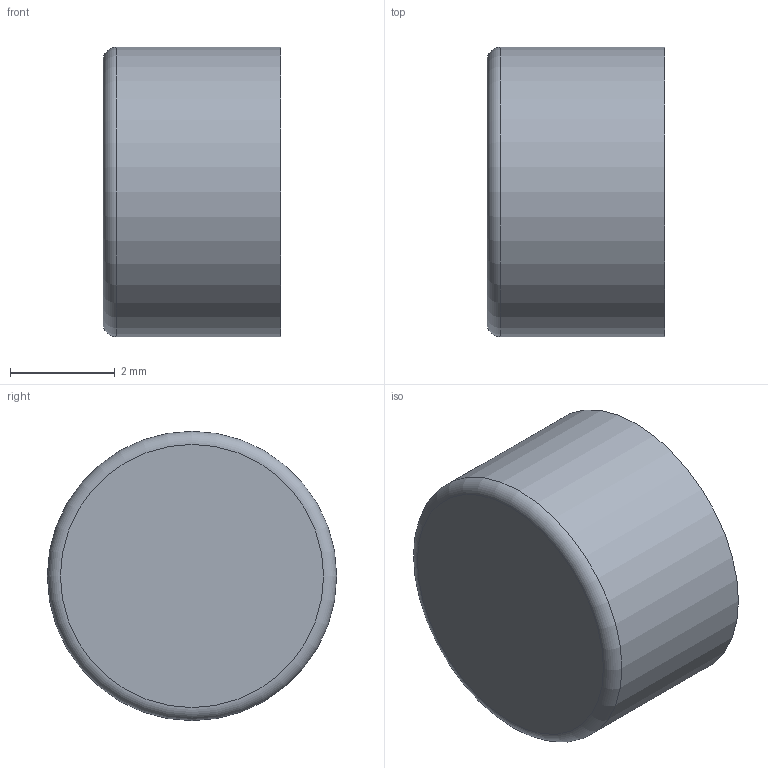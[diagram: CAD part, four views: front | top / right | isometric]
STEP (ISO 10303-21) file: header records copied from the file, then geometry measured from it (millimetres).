
FILE_DESCRIPTION(/* description */ ('CARTRIDGE SCREEN, 5.5mm'),/* implementation_level */ '2;1');
FILE_NAME(/* name */ '\\ABSOLUTE\SmWork\Vernon\SCRM755XXXXS.stp',/* time_stamp */ '2021-03-23T15:02:57-04:00',/* author */ ('VernonJ'),/* organization */ (''),/* preprocessor_version */ 'ST-DEVELOPER v18',/* originating_system */ 'Autodesk Inventor 2020',/* authorisation */ '');
FILE_SCHEMA (('AUTOMOTIVE_DESIGN { 1 0 10303 214 3 1 1 }'));
Length unit declared in the file: millimetre
Products named in the file (1): SCRM755XXXXS
Bounding box: 3.4 x 5.53 x 5.53 mm (x, y, z)
Volume: 68 mm3; surface area: 116.8 mm2
Topology: 1 solids, 1 shells, 7 faces, 18 edges, 14 vertices
Faces by surface type: plane 3, torus 2, cylinder 2
Full cylindrical faces by diameter (mm): 4.11 x1, 5.53 x1
Entity records: 277 total; most frequent: DIRECTION 50, CARTESIAN_POINT 40, ORIENTED_EDGE 36, AXIS2_PLACEMENT_3D 24, EDGE_CURVE 18, CIRCLE 16, VERTEX_POINT 14, EDGE_LOOP 8
